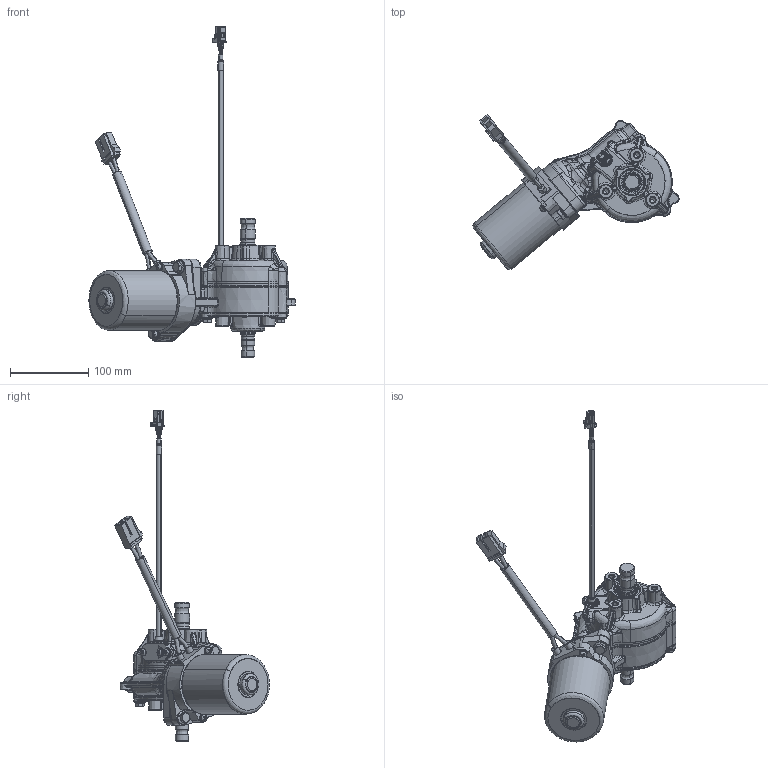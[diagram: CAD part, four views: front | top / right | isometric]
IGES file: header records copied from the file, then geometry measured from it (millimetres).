
Start section: START RECORD GO HERE.
Global section: file name: CA10+ZC10 ALL-PURPUSE COLUMN EPS.igs; native system: DASSAULT SYSTEMES CATIA Version 5-6 Release 2017 - www.3ds.com; preprocessor: V5-6R2017_5.27.6.0.09-13-2018.20.00; author: kani-; organization: DESKTOP-5OU850M; date: 20230313.203835; units: millimetre
Bounding box: 263.12 x 197.77 x 422.71 mm (x, y, z)
Surface area: 137872.2 mm2 (no closed solid volume)
Topology: 0 solids, 0 shells, 2572 faces, 13140 edges, 13081 vertices
Faces by surface type: plane 1013, revolution 993, bspline 566
